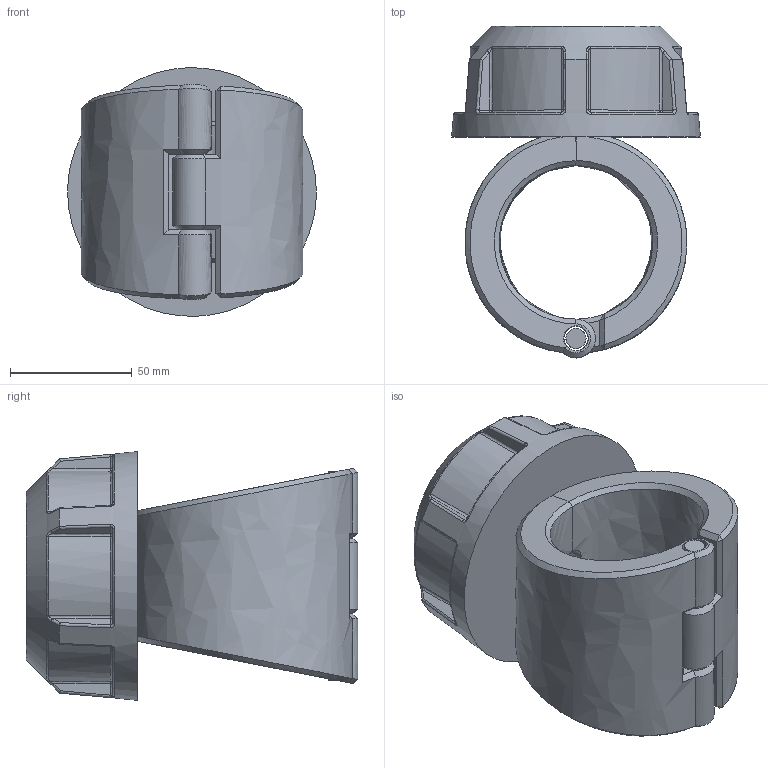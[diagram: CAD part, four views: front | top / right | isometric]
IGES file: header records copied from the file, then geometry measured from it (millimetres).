
Global section: file name: 163000063005; native system: Autodesk Inventor 2019; preprocessor: unknown; author: comp2; date: 20220203.114627; units: millimetre
Bounding box: 102 x 136 x 101.96 mm (x, y, z)
Volume: 505929.8 mm3; surface area: 78253.9 mm2
Topology: 4 solids, 4 shells, 203 faces, 486 edges, 293 vertices
Faces by surface type: bspline 203
